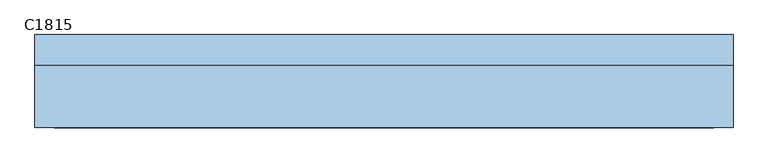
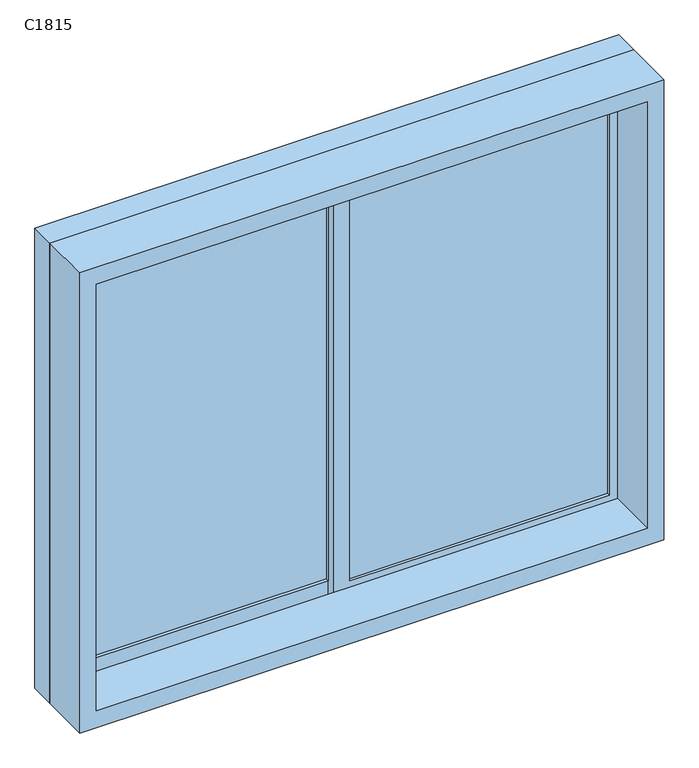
"""IFC4 building model written with IfcOpenShell, lengths in millimetres: window geometry, 推拉窗6 : C1815."""

from ifc_helpers import new_model, si_unit, frame, origin, place, context, project, spatial, polyline, outline, extrude, source, transform, mapped, element, save


def c1815_f293d40e(model_context):
    return source(origin(), model_context, "Body", "SweptSolid", [
        extrude(outline(polyline([(-815.475, 23.1265625), (-15.475, 23.1265625), (-15.475, 13.1265625), (-815.475, 13.1265625), (-815.475, 23.1265625)])), frame((0.0, 0.0, 975.0), z_axis=(0.0, 0.0, 1.0), x_axis=(1.0, 0.0, 0.0)), (0.0, 0.0, 1.0), 1350.0),
        extrude(outline(polyline([(34.525, -6.8734375), (834.525, -6.8734375), (834.525, -16.8734375), (34.525, -16.8734375), (34.525, -6.8734375)])), frame((0.0, 0.0, 975.0), z_axis=(0.0, 0.0, 1.0), x_axis=(1.0, 0.0, 0.0)), (0.0, 0.0, 1.0), 1350.0),
        extrude(outline(polyline([(2400.0, -890.475), (900.0, -890.475), (900.0, 909.525), (2400.0, 909.525), (2400.0, -890.475)]), holes=[polyline([(2345.0, 859.525), (955.0, 859.525), (955.0, -840.475), (2345.0, -840.475), (2345.0, 859.525)])]), frame((0.0, -186.8734375, 0.0), z_axis=(0.0, 1.0, 0.0), x_axis=(0.0, 0.0, 1.0)), (0.0, 0.0, 1.0), 160.0),
        extrude(outline(polyline([(925.0, 34.525), (2375.0, 34.525), (2375.0, -865.475), (925.0, -865.475), (925.0, 34.525)]), holes=[polyline([(975.0, -15.475), (975.0, -815.475), (2325.0, -815.475), (2325.0, -15.475), (975.0, -15.475)])]), frame((0.0, 3.1265625, 0.0), z_axis=(0.0, 1.0, 0.0), x_axis=(0.0, 0.0, 1.0)), (0.0, 0.0, 1.0), 30.0),
        extrude(outline(polyline([(2375.0, -15.475), (925.0, -15.475), (925.0, 884.525), (2375.0, 884.525), (2375.0, -15.475)]), holes=[polyline([(2325.0, 34.525), (2325.0, 834.525), (975.0, 834.525), (975.0, 34.525), (2325.0, 34.525)])]), frame((0.0, -26.8734375, 0.0), z_axis=(0.0, 1.0, 0.0), x_axis=(0.0, 0.0, 1.0)), (0.0, 0.0, 1.0), 30.0),
        extrude(outline(polyline([(2400.0, -890.475), (900.0, -890.475), (900.0, 909.525), (2400.0, 909.525), (2400.0, -890.475)]), holes=[polyline([(925.0, -865.475), (2375.0, -865.475), (2375.0, 884.525), (925.0, 884.525), (925.0, -865.475)])]), frame((0.0, -26.8734375, 0.0), z_axis=(0.0, 1.0, 0.0), x_axis=(0.0, 0.0, 1.0)), (0.0, 0.0, 1.0), 80.0),
    ])


if __name__ == "__main__":
    model = new_model("IFC4")
    model_context = context("Model", 3, world=origin())
    ifc_project = project(units=[si_unit("LENGTHUNIT", "METRE", prefix="MILLI")], contexts=[model_context])
    site = spatial("IfcSite", under=ifc_project)
    building = spatial("IfcBuilding", under=site)
    placement = place(None, origin())
    c1815_shape = c1815_f293d40e(model_context)
    element("IfcWindow", 1, ObjectType="推拉窗6 : C1815", at=placement, inside=building, context=model_context, shape_type="MappedRepresentation", body=[
        mapped(c1815_shape, transform((0.0, 0.0, 0.0), x_axis=(1.0, 0.0, 0.0), y_axis=(0.0, 1.0, 0.0), z_axis=(0.0, 0.0, 1.0))),
    ])
    save(model, "model.ifc")
